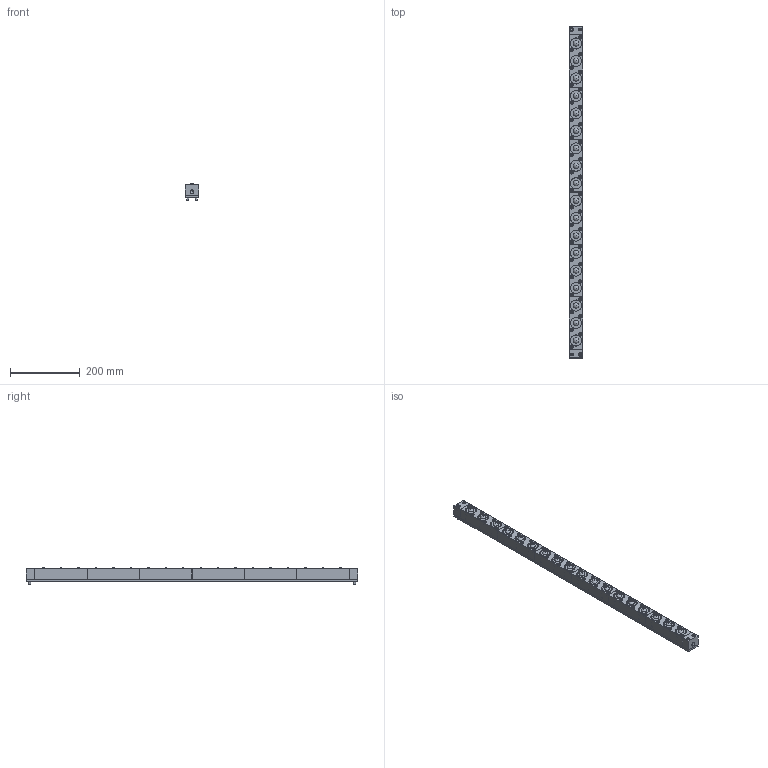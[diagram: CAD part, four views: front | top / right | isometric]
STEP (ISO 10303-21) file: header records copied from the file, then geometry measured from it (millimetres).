
FILE_DESCRIPTION(/* description */ (''),/* implementation_level */ '2;1');
FILE_NAME(/* name */ 'Z:\34-Tei\01-web 3Dデータ\40-ISR-38\X2\578B\X0\\ISR-38-950-A.stp',/* time_stamp */ '2015-01-15T17:57:34+09:00',/* author */ ('yamaki'),/* organization */ (''),/* preprocessor_version */ 'ST-DEVELOPER v15.6',/* originating_system */ 'Autodesk Inventor 2015',/* authorisation */ '');
FILE_SCHEMA (('AUTOMOTIVE_DESIGN { 1 0 10303 214 3 1 1 }'));
Length unit declared in the file: millimetre
Products named in the file (6): 4100AT-01-950; 4100AT-00; 4100AT-03; RSW10601; HCB10635; 4100AA
Bounding box: 38 x 950 x 48 mm (x, y, z)
Volume: 1253853.6 mm3; surface area: 392684.8 mm2
Topology: 29 solids, 29 shells, 882 faces, 1827 edges, 1174 vertices
Faces by surface type: plane 563, cylinder 179, cone 80, torus 42, sphere 18
Full cylindrical faces by diameter (mm): 6 x2, 6.5 x2, 7 x2, 8 x2, 8.5 x36, 9.5 x36, 10 x2, 10.5 x1, 11 x2, 25.7 x18, 31.5 x18, 32 x18, 35 x36
Entity records: 5160 total; most frequent: CARTESIAN_POINT 933, DIRECTION 836, ORIENTED_EDGE 694, EDGE_CURVE 347, AXIS2_PLACEMENT_3D 314, EDGE_LOOP 284, VERTEX_POINT 249, LINE 208
